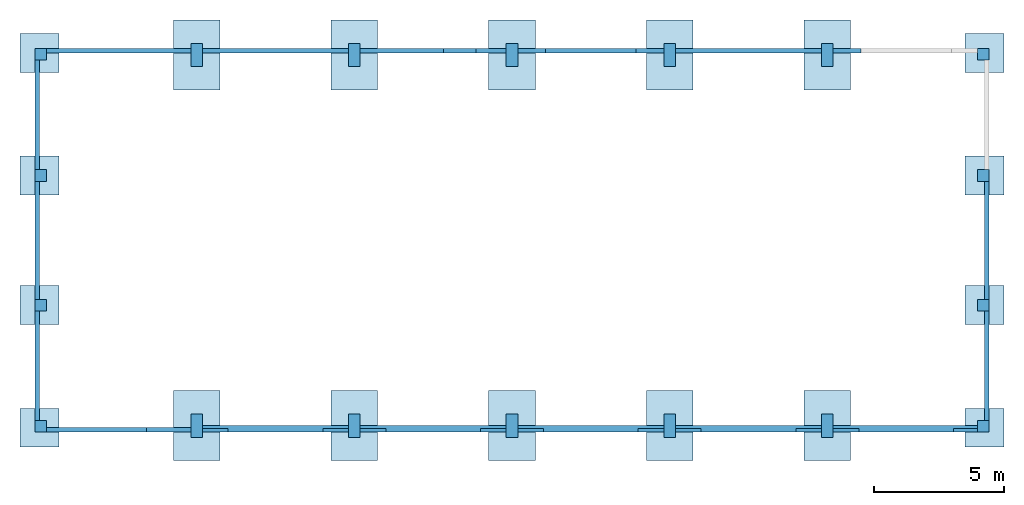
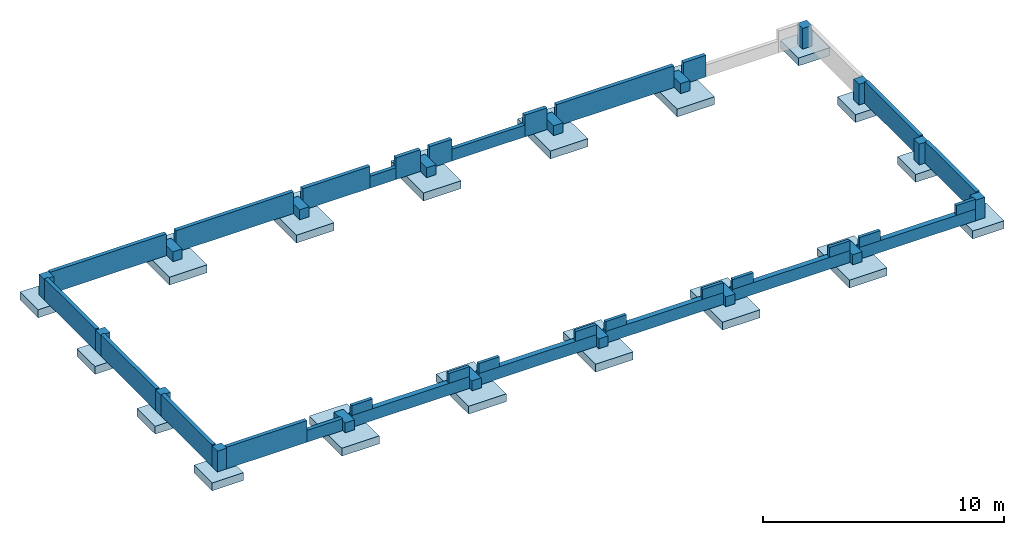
# One storey, part 1 of 2: 36 footings, 32 walls.
"""IFC2X3 building model written with IfcOpenShell, lengths in metres."""

from ifc_helpers import new_model, entity, si_unit, converted_unit, frame, frame_2d, origin, origin_with_axes, place, context, subcontext, project, spatial, rectangle, extrude, material, layer, layer_set, layer_usage, element, save


model = new_model("IFC2X3")

# Units and contexts
model_context = context("Model", 3, precision=1e-05, world=origin())
body_context = subcontext(model_context, "Body", "Model", "MODEL_VIEW")
ifc_project = project(units=[si_unit("LENGTHUNIT", "METRE"), si_unit("AREAUNIT", "SQUARE_METRE"), si_unit("VOLUMEUNIT", "CUBIC_METRE"), si_unit("MASSUNIT", "GRAM", prefix="KILO"), converted_unit("PLANEANGLEUNIT", "DEGREE", entity("IfcPlaneAngleMeasure", 0.0174532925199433), si_unit("PLANEANGLEUNIT", "RADIAN"), dimensions=[0, 0, 0, 0, 0, 0, 0])], contexts=[model_context])

# Building, storey
building_placement = place(None, origin())
building = spatial("IfcBuilding", under=ifc_project, at=building_placement, Name="Szalunki", CompositionType="ELEMENT")
storey_placement = place(building_placement, origin())
storey = spatial("IfcBuildingStorey", under=building, at=storey_placement, Name="Fundamenty", CompositionType="ELEMENT", Elevation=0.0)

# Footings
ifc_material_1 = material()
footing_1_placement = place(storey_placement, frame((5.16299999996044, 13.0500000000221, -1.2)))
element("IfcFooting", 1, at=footing_1_placement, inside=storey, material=ifc_material_1, PredefinedType="PAD_FOOTING", context=body_context, shape_type="SweptSolid", body=[
    extrude(rectangle(XDim=1.8, YDim=2.7, at=frame_2d((0.9, 1.35), x_axis=(1.0, 0.0))), origin_with_axes(), (0.0, 0.0, 1.0), 0.4),
])
ifc_material_2 = material()
footing_2_placement = place(storey_placement, frame((11.2459999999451, 13.0500000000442, -1.2)))
element("IfcFooting", 2, at=footing_2_placement, inside=storey, material=ifc_material_2, PredefinedType="PAD_FOOTING", context=body_context, shape_type="SweptSolid", body=[
    extrude(rectangle(XDim=1.8, YDim=2.7, at=frame_2d((0.9, 1.35), x_axis=(1.0, 0.0))), origin_with_axes(), (0.0, 0.0, 1.0), 0.4),
])
ifc_material_3 = material()
footing_3_placement = place(storey_placement, frame((17.3289999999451, 13.0500000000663, -1.2)))
element("IfcFooting", 3, at=footing_3_placement, inside=storey, material=ifc_material_3, PredefinedType="PAD_FOOTING", context=body_context, shape_type="SweptSolid", body=[
    extrude(rectangle(XDim=1.8, YDim=2.7, at=frame_2d((0.9, 1.35), x_axis=(1.0, 0.0))), origin_with_axes(), (0.0, 0.0, 1.0), 0.4),
])
ifc_material_4 = material()
footing_4_placement = place(storey_placement, frame((23.4119999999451, 13.0500000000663, -1.2)))
element("IfcFooting", 4, at=footing_4_placement, inside=storey, material=ifc_material_4, PredefinedType="PAD_FOOTING", context=body_context, shape_type="SweptSolid", body=[
    extrude(rectangle(XDim=1.8, YDim=2.7, at=frame_2d((0.9, 1.35), x_axis=(1.0, 0.0))), origin_with_axes(), (0.0, 0.0, 1.0), 0.4),
])
ifc_material_5 = material()
footing_5_placement = place(storey_placement, frame((29.4949999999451, 13.0500000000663, -1.2)))
element("IfcFooting", 5, at=footing_5_placement, inside=storey, material=ifc_material_5, PredefinedType="PAD_FOOTING", context=body_context, shape_type="SweptSolid", body=[
    extrude(rectangle(XDim=1.8, YDim=2.7, at=frame_2d((0.9, 1.35), x_axis=(1.0, 0.0))), origin_with_axes(), (0.0, 0.0, 1.0), 0.4),
])
ifc_material_6 = material()
footing_6_placement = place(storey_placement, frame((29.4949999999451, -1.24999999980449, -1.2)))
element("IfcFooting", 6, at=footing_6_placement, inside=storey, material=ifc_material_6, PredefinedType="PAD_FOOTING", context=body_context, shape_type="SweptSolid", body=[
    extrude(rectangle(XDim=1.8, YDim=2.7, at=frame_2d((-0.9, -1.35), x_axis=(-1.0, 0.0))), frame((1.8, 2.7, 0.0), z_axis=(0.0, 0.0, 1.0), x_axis=(1.0, 0.0, 0.0)), (0.0, 0.0, 1.0), 0.4),
])
ifc_material_7 = material()
footing_7_placement = place(storey_placement, frame((23.4119999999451, -1.24999999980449, -1.2)))
element("IfcFooting", 7, at=footing_7_placement, inside=storey, material=ifc_material_7, PredefinedType="PAD_FOOTING", context=body_context, shape_type="SweptSolid", body=[
    extrude(rectangle(XDim=1.8, YDim=2.7, at=frame_2d((-0.9, -1.35), x_axis=(-1.0, 0.0))), frame((1.8, 2.7, 0.0), z_axis=(0.0, 0.0, 1.0), x_axis=(1.0, 0.0, 0.0)), (0.0, 0.0, 1.0), 0.4),
])
ifc_material_8 = material()
footing_8_placement = place(storey_placement, frame((17.3289999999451, -1.24999999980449, -1.2)))
element("IfcFooting", 8, at=footing_8_placement, inside=storey, material=ifc_material_8, PredefinedType="PAD_FOOTING", context=body_context, shape_type="SweptSolid", body=[
    extrude(rectangle(XDim=1.8, YDim=2.7, at=frame_2d((-0.9, -1.35), x_axis=(-1.0, 0.0))), frame((1.8, 2.7, 0.0), z_axis=(0.0, 0.0, 1.0), x_axis=(1.0, 0.0, 0.0)), (0.0, 0.0, 1.0), 0.4),
])
ifc_material_9 = material()
footing_9_placement = place(storey_placement, frame((11.2459999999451, -1.24999999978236, -1.2)))
element("IfcFooting", 9, at=footing_9_placement, inside=storey, material=ifc_material_9, PredefinedType="PAD_FOOTING", context=body_context, shape_type="SweptSolid", body=[
    extrude(rectangle(XDim=1.8, YDim=2.7, at=frame_2d((-0.9, -1.35), x_axis=(-1.0, 0.0))), frame((1.8, 2.7, 0.0), z_axis=(0.0, 0.0, 1.0), x_axis=(1.0, 0.0, 0.0)), (0.0, 0.0, 1.0), 0.4),
])
ifc_material_10 = material()
footing_10_placement = place(storey_placement, frame((5.16299999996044, -1.24999999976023, -1.2)))
element("IfcFooting", 10, at=footing_10_placement, inside=storey, material=ifc_material_10, PredefinedType="PAD_FOOTING", context=body_context, shape_type="SweptSolid", body=[
    extrude(rectangle(XDim=1.8, YDim=2.7, at=frame_2d((-0.9, -1.35), x_axis=(-1.0, 0.0))), frame((1.8, 2.7, 0.0), z_axis=(0.0, 0.0, 1.0), x_axis=(1.0, 0.0, 0.0)), (0.0, 0.0, 1.0), 0.4),
])
ifc_material_11 = material()
footing_11_placement = place(storey_placement, frame((-0.750000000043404, 13.7299999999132, -1.2)))
element("IfcFooting", 11, at=footing_11_placement, inside=storey, material=ifc_material_11, PredefinedType="PAD_FOOTING", context=body_context, shape_type="SweptSolid", body=[
    extrude(rectangle(XDim=1.5, YDim=1.5, at=frame_2d((0.749999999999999, 0.75), x_axis=(1.0, 0.0))), origin_with_axes(), (0.0, 0.0, 1.0), 0.4),
])
ifc_material_12 = material()
footing_12_placement = place(storey_placement, frame((-0.750000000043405, 8.99999999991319, -1.2)))
element("IfcFooting", 12, at=footing_12_placement, inside=storey, material=ifc_material_12, PredefinedType="PAD_FOOTING", context=body_context, shape_type="SweptSolid", body=[
    extrude(rectangle(XDim=1.5, YDim=1.5, at=frame_2d((0.749999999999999, 0.75), x_axis=(1.0, 0.0))), origin_with_axes(), (0.0, 0.0, 1.0), 0.4),
])
ifc_material_13 = material()
footing_13_placement = place(storey_placement, frame((-0.750000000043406, 3.99999999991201, -1.2)))
element("IfcFooting", 13, at=footing_13_placement, inside=storey, material=ifc_material_13, PredefinedType="PAD_FOOTING", context=body_context, shape_type="SweptSolid", body=[
    extrude(rectangle(XDim=1.5, YDim=1.5, at=frame_2d((0.749999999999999, 0.75), x_axis=(1.0, 0.0))), origin_with_axes(), (0.0, 0.0, 1.0), 0.4),
])
ifc_material_14 = material()
footing_14_placement = place(storey_placement, frame((-0.750000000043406, -0.729999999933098, -1.2)))
element("IfcFooting", 14, at=footing_14_placement, inside=storey, material=ifc_material_14, PredefinedType="PAD_FOOTING", context=body_context, shape_type="SweptSolid", body=[
    extrude(rectangle(XDim=1.5, YDim=1.5, at=frame_2d((-0.75, -0.75), x_axis=(-1.0, 1.51582450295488e-16))), frame((1.5, 1.5, 0.0), z_axis=(0.0, 0.0, 1.0), x_axis=(1.0, 0.0, 0.0)), (0.0, 0.0, 1.0), 0.4),
])
ifc_material_15 = material()
footing_15_placement = place(storey_placement, frame((35.707999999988, -0.7299999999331, -1.2)))
element("IfcFooting", 15, at=footing_15_placement, inside=storey, material=ifc_material_15, PredefinedType="PAD_FOOTING", context=body_context, shape_type="SweptSolid", body=[
    extrude(rectangle(XDim=1.5, YDim=1.5, at=frame_2d((-0.75, -0.75), x_axis=(-1.0, -7.5791225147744e-17))), frame((1.5, 1.5, 0.0), z_axis=(0.0, 0.0, 1.0), x_axis=(1.0, 0.0, 0.0)), (0.0, 0.0, 1.0), 0.4),
])
ifc_material_16 = material()
footing_16_placement = place(storey_placement, frame((35.707999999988, 3.99999999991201, -1.2)))
element("IfcFooting", 16, at=footing_16_placement, inside=storey, material=ifc_material_16, PredefinedType="PAD_FOOTING", context=body_context, shape_type="SweptSolid", body=[
    extrude(rectangle(XDim=1.5, YDim=1.5, at=frame_2d((0.75, 0.75), x_axis=(1.0, 0.0))), origin_with_axes(), (0.0, 0.0, 1.0), 0.4),
])
ifc_material_17 = material()
footing_17_placement = place(storey_placement, frame((35.707999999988, 8.99999999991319, -1.2)))
element("IfcFooting", 17, at=footing_17_placement, inside=storey, material=ifc_material_17, PredefinedType="PAD_FOOTING", context=body_context, shape_type="SweptSolid", body=[
    extrude(rectangle(XDim=1.5, YDim=1.5, at=frame_2d((0.75, 0.75), x_axis=(1.0, 0.0))), origin_with_axes(), (0.0, 0.0, 1.0), 0.4),
])
ifc_material_18 = material()
footing_18_placement = place(storey_placement, frame((35.707999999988, 13.7299999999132, -1.2)))
element("IfcFooting", 18, at=footing_18_placement, inside=storey, material=ifc_material_18, PredefinedType="PAD_FOOTING", context=body_context, shape_type="SweptSolid", body=[
    extrude(rectangle(XDim=1.49999999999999, YDim=1.5, at=frame_2d((0.75, 0.75), x_axis=(1.0, 0.0))), origin_with_axes(), (0.0, 0.0, 1.0), 0.4),
])
ifc_material_19 = material()
footing_19_placement = place(storey_placement, frame((5.83799999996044, 13.9500000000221, -0.8)))
element("IfcFooting", 19, at=footing_19_placement, inside=storey, material=ifc_material_19, PredefinedType="PAD_FOOTING", context=body_context, shape_type="SweptSolid", body=[
    extrude(rectangle(XDim=0.45, YDim=0.9, at=frame_2d((0.225, 0.45), x_axis=(1.0, 0.0))), origin_with_axes(), (0.0, 0.0, 1.0), 0.5),
])
ifc_material_20 = material()
footing_20_placement = place(storey_placement, frame((11.9209999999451, 13.9500000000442, -0.8)))
element("IfcFooting", 20, at=footing_20_placement, inside=storey, material=ifc_material_20, PredefinedType="PAD_FOOTING", context=body_context, shape_type="SweptSolid", body=[
    extrude(rectangle(XDim=0.45, YDim=0.9, at=frame_2d((0.225, 0.45), x_axis=(1.0, 0.0))), origin_with_axes(), (0.0, 0.0, 1.0), 0.5),
])
ifc_material_21 = material()
footing_21_placement = place(storey_placement, frame((18.0039999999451, 13.9500000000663, -0.8)))
element("IfcFooting", 21, at=footing_21_placement, inside=storey, material=ifc_material_21, PredefinedType="PAD_FOOTING", context=body_context, shape_type="SweptSolid", body=[
    extrude(rectangle(XDim=0.45, YDim=0.9, at=frame_2d((0.225, 0.45), x_axis=(1.0, 0.0))), origin_with_axes(), (0.0, 0.0, 1.0), 0.5),
])
ifc_material_22 = material()
footing_22_placement = place(storey_placement, frame((24.0869999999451, 13.9500000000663, -0.8)))
element("IfcFooting", 22, at=footing_22_placement, inside=storey, material=ifc_material_22, PredefinedType="PAD_FOOTING", context=body_context, shape_type="SweptSolid", body=[
    extrude(rectangle(XDim=0.45, YDim=0.9, at=frame_2d((0.225, 0.45), x_axis=(1.0, 0.0))), origin_with_axes(), (0.0, 0.0, 1.0), 0.5),
])
ifc_material_23 = material()
footing_23_placement = place(storey_placement, frame((30.1699999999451, 13.9500000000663, -0.8)))
element("IfcFooting", 23, at=footing_23_placement, inside=storey, material=ifc_material_23, PredefinedType="PAD_FOOTING", context=body_context, shape_type="SweptSolid", body=[
    extrude(rectangle(XDim=0.45, YDim=0.9, at=frame_2d((0.225, 0.45), x_axis=(1.0, 0.0))), origin_with_axes(), (0.0, 0.0, 1.0), 0.5),
])
ifc_material_24 = material()
footing_24_placement = place(storey_placement, frame((30.1699999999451, -0.34999999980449, -0.8)))
element("IfcFooting", 24, at=footing_24_placement, inside=storey, material=ifc_material_24, PredefinedType="PAD_FOOTING", context=body_context, shape_type="SweptSolid", body=[
    extrude(rectangle(XDim=0.45, YDim=0.9, at=frame_2d((-0.225, -0.45), x_axis=(-1.0, 0.0))), frame((0.45, 0.9, 0.0), z_axis=(0.0, 0.0, 1.0), x_axis=(1.0, 0.0, 0.0)), (0.0, 0.0, 1.0), 0.5),
])
ifc_material_25 = material()
footing_25_placement = place(storey_placement, frame((24.0869999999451, -0.34999999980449, -0.8)))
element("IfcFooting", 25, at=footing_25_placement, inside=storey, material=ifc_material_25, PredefinedType="PAD_FOOTING", context=body_context, shape_type="SweptSolid", body=[
    extrude(rectangle(XDim=0.45, YDim=0.9, at=frame_2d((-0.225, -0.45), x_axis=(-1.0, 0.0))), frame((0.45, 0.9, 0.0), z_axis=(0.0, 0.0, 1.0), x_axis=(1.0, 0.0, 0.0)), (0.0, 0.0, 1.0), 0.5),
])
ifc_material_26 = material()
footing_26_placement = place(storey_placement, frame((18.0039999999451, -0.34999999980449, -0.8)))
element("IfcFooting", 26, at=footing_26_placement, inside=storey, material=ifc_material_26, PredefinedType="PAD_FOOTING", context=body_context, shape_type="SweptSolid", body=[
    extrude(rectangle(XDim=0.45, YDim=0.9, at=frame_2d((-0.225, -0.45), x_axis=(-1.0, 0.0))), frame((0.45, 0.9, 0.0), z_axis=(0.0, 0.0, 1.0), x_axis=(1.0, 0.0, 0.0)), (0.0, 0.0, 1.0), 0.5),
])
ifc_material_27 = material()
footing_27_placement = place(storey_placement, frame((11.9209999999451, -0.34999999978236, -0.8)))
element("IfcFooting", 27, at=footing_27_placement, inside=storey, material=ifc_material_27, PredefinedType="PAD_FOOTING", context=body_context, shape_type="SweptSolid", body=[
    extrude(rectangle(XDim=0.45, YDim=0.9, at=frame_2d((-0.225, -0.45), x_axis=(-1.0, 0.0))), frame((0.45, 0.9, 0.0), z_axis=(0.0, 0.0, 1.0), x_axis=(1.0, 0.0, 0.0)), (0.0, 0.0, 1.0), 0.5),
])
ifc_material_28 = material()
footing_28_placement = place(storey_placement, frame((5.83799999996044, -0.34999999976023, -0.8)))
element("IfcFooting", 28, at=footing_28_placement, inside=storey, material=ifc_material_28, PredefinedType="PAD_FOOTING", context=body_context, shape_type="SweptSolid", body=[
    extrude(rectangle(XDim=0.45, YDim=0.9, at=frame_2d((-0.225, -0.45), x_axis=(-1.0, 0.0))), frame((0.45, 0.9, 0.0), z_axis=(0.0, 0.0, 1.0), x_axis=(1.0, 0.0, 0.0)), (0.0, 0.0, 1.0), 0.5),
])
ifc_material_29 = material()
footing_29_placement = place(storey_placement, frame((-0.169999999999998, 9.52499999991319, -0.8)))
element("IfcFooting", 29, at=footing_29_placement, inside=storey, material=ifc_material_29, PredefinedType="PAD_FOOTING", context=body_context, shape_type="SweptSolid", body=[
    extrude(rectangle(XDim=0.449999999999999, YDim=0.45, at=frame_2d((0.225, 0.225), x_axis=(1.0, 0.0))), origin_with_axes(), (0.0, 0.0, 1.0), 1.05),
])
ifc_material_30 = material()
footing_30_placement = place(storey_placement, frame((-0.169999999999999, 4.52499999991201, -0.8)))
element("IfcFooting", 30, at=footing_30_placement, inside=storey, material=ifc_material_30, PredefinedType="PAD_FOOTING", context=body_context, shape_type="SweptSolid", body=[
    extrude(rectangle(XDim=0.449999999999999, YDim=0.45, at=frame_2d((0.225, 0.225), x_axis=(1.0, 0.0))), origin_with_axes(), (0.0, 0.0, 1.0), 1.05),
])
ifc_material_31 = material()
footing_31_placement = place(storey_placement, frame((-0.169999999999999, -0.149999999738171, -0.8)))
element("IfcFooting", 31, at=footing_31_placement, inside=storey, material=ifc_material_31, PredefinedType="PAD_FOOTING", context=body_context, shape_type="SweptSolid", body=[
    extrude(rectangle(XDim=0.449999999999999, YDim=0.45, at=frame_2d((-0.225, -0.225), x_axis=(-1.0, 1.26318708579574e-16))), frame((0.449999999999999, 0.45, 0.0), z_axis=(0.0, 0.0, 1.0), x_axis=(1.0, 0.0, 0.0)), (0.0, 0.0, 1.0), 1.05),
])
ifc_material_32 = material()
footing_32_placement = place(storey_placement, frame((-0.169999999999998, 14.2, -0.8)))
element("IfcFooting", 32, at=footing_32_placement, inside=storey, material=ifc_material_32, PredefinedType="PAD_FOOTING", context=body_context, shape_type="SweptSolid", body=[
    extrude(rectangle(XDim=0.449999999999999, YDim=0.45, at=frame_2d((0.225, 0.225), x_axis=(1.0, 0.0))), origin_with_axes(), (0.0, 0.0, 1.0), 1.05),
])
ifc_material_33 = material()
footing_33_placement = place(storey_placement, frame((36.1779999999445, 4.52499999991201, -0.8)))
element("IfcFooting", 33, at=footing_33_placement, inside=storey, material=ifc_material_33, PredefinedType="PAD_FOOTING", context=body_context, shape_type="SweptSolid", body=[
    extrude(rectangle(XDim=0.45, YDim=0.45, at=frame_2d((0.225, 0.225), x_axis=(1.0, 0.0))), origin_with_axes(), (0.0, 0.0, 1.0), 1.05),
])
ifc_material_34 = material()
footing_34_placement = place(storey_placement, frame((36.1779999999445, 9.52499999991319, -0.8)))
element("IfcFooting", 34, at=footing_34_placement, inside=storey, material=ifc_material_34, PredefinedType="PAD_FOOTING", context=body_context, shape_type="SweptSolid", body=[
    extrude(rectangle(XDim=0.45, YDim=0.45, at=frame_2d((0.225, 0.225), x_axis=(1.0, 0.0))), origin_with_axes(), (0.0, 0.0, 1.0), 1.05),
])
ifc_material_35 = material()
footing_35_placement = place(storey_placement, frame((36.1779999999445, 14.2, -0.8)))
element("IfcFooting", 35, at=footing_35_placement, inside=storey, material=ifc_material_35, PredefinedType="PAD_FOOTING", context=body_context, shape_type="SweptSolid", body=[
    extrude(rectangle(XDim=0.45, YDim=0.45, at=frame_2d((0.225, 0.225), x_axis=(1.0, 0.0))), origin_with_axes(), (0.0, 0.0, 1.0), 1.05),
])
ifc_material_36 = material()
footing_36_placement = place(storey_placement, frame((36.1779999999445, -0.149999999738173, -0.8)))
element("IfcFooting", 36, at=footing_36_placement, inside=storey, material=ifc_material_36, PredefinedType="PAD_FOOTING", context=body_context, shape_type="SweptSolid", body=[
    extrude(rectangle(XDim=0.45, YDim=0.45, at=frame_2d((-0.225, -0.225), x_axis=(-1.0, -1.26318708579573e-16))), frame((0.45, 0.45, 0.0), z_axis=(0.0, 0.0, 1.0), x_axis=(1.0, 0.0, 0.0)), (0.0, 0.0, 1.0), 1.05),
])

# Walls
ifc_material_37 = material()
ifc_layer_1 = layer(ifc_material_37, 0.18)
ifc_layer_set_1 = layer_set([ifc_layer_1])
ifc_layer_usage_1 = layer_usage(ifc_layer_set_1, "AXIS2", "POSITIVE", 0.0)
wall_1_placement = place(storey_placement, frame((11.9209999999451, 14.65, -0.8), z_axis=(0.0, 0.0, 1.0), x_axis=(-1.0, 0.0, 0.0)))
element("IfcWallStandardCase", 37, at=wall_1_placement, inside=storey, material=ifc_layer_usage_1, context=body_context, shape_type="SweptSolid", body=[
    extrude(rectangle(XDim=5.63299999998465, YDim=0.18, at=frame_2d((2.81649999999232, 0.09), x_axis=(1.0, 0.0))), origin_with_axes(), (0.0, 0.0, 1.0), 1.1),
])
ifc_material_38 = material()
ifc_layer_2 = layer(ifc_material_38, 0.18)
ifc_layer_set_2 = layer_set([ifc_layer_2])
ifc_layer_usage_2 = layer_usage(ifc_layer_set_2, "AXIS2", "POSITIVE", 0.0)
wall_2_placement = place(storey_placement, frame((30.1699999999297, 14.65, -0.8), z_axis=(0.0, 0.0, 1.0), x_axis=(-1.0, 0.0, 0.0)))
element("IfcWallStandardCase", 38, at=wall_2_placement, inside=storey, material=ifc_layer_usage_2, context=body_context, shape_type="SweptSolid", body=[
    extrude(rectangle(XDim=5.63299999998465, YDim=0.18, at=frame_2d((2.81649999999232, 0.09), x_axis=(1.0, 0.0))), origin_with_axes(), (0.0, 0.0, 1.0), 1.1),
])
ifc_material_39 = material()
ifc_layer_3 = layer(ifc_material_39, 0.18)
ifc_layer_set_3 = layer_set([ifc_layer_3])
ifc_layer_usage_3 = layer_usage(ifc_layer_set_3, "AXIS2", "POSITIVE", 0.0)
wall_3_placement = place(storey_placement, frame((15.5960014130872, 14.65, -0.8), z_axis=(0.0, 0.0, 1.0), x_axis=(-1.0, 0.0, 0.0)))
element("IfcWallStandardCase", 39, at=wall_3_placement, inside=storey, material=ifc_layer_usage_3, context=body_context, shape_type="SweptSolid", body=[
    extrude(rectangle(XDim=3.22500141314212, YDim=0.18, at=frame_2d((1.61250070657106, 0.09), x_axis=(1.0, 0.0))), origin_with_axes(), (0.0, 0.0, 1.0), 1.1),
])
ifc_material_40 = material()
ifc_layer_4 = layer(ifc_material_40, 0.18)
ifc_layer_set_4 = layer_set([ifc_layer_4])
ifc_layer_usage_4 = layer_usage(ifc_layer_set_4, "AXIS2", "POSITIVE", 0.0)
wall_4_placement = place(storey_placement, frame((18.0039999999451, 14.65, -0.8), z_axis=(0.0, 0.0, 1.0), x_axis=(-1.0, 0.0, 0.0)))
element("IfcWallStandardCase", 40, at=wall_4_placement, inside=storey, material=ifc_layer_usage_4, context=body_context, shape_type="SweptSolid", body=[
    extrude(rectangle(XDim=1.15799858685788, YDim=0.18, at=frame_2d((0.57899929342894, 0.09), x_axis=(1.0, 0.0))), origin_with_axes(), (0.0, 0.0, 1.0), 1.1),
])
ifc_material_41 = material()
ifc_layer_5 = layer(ifc_material_41, 0.18)
ifc_layer_set_5 = layer_set([ifc_layer_5])
ifc_layer_usage_5 = layer_usage(ifc_layer_set_5, "AXIS2", "POSITIVE", 0.0)
wall_5_placement = place(storey_placement, frame((16.8460014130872, 14.65, -0.8), z_axis=(0.0, 0.0, 1.0), x_axis=(-1.0, 0.0, 0.0)))
element("IfcWallStandardCase", 41, at=wall_5_placement, inside=storey, material=ifc_layer_usage_5, context=body_context, shape_type="SweptSolid", body=[
    extrude(rectangle(XDim=1.25, YDim=0.18, at=frame_2d((0.625, 0.09), x_axis=(1.0, 0.0))), origin_with_axes(), (0.0, 0.0, 1.0), 0.6),
])
ifc_material_42 = material()
ifc_layer_6 = layer(ifc_material_42, 0.18)
ifc_layer_set_6 = layer_set([ifc_layer_6])
ifc_layer_usage_6 = layer_usage(ifc_layer_set_6, "AXIS2", "POSITIVE", 0.0)
wall_6_placement = place(storey_placement, frame((4.12100141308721, -0.149999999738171, -0.8)))
element("IfcWallStandardCase", 42, at=wall_6_placement, inside=storey, material=ifc_layer_usage_6, context=body_context, shape_type="SweptSolid", body=[
    extrude(rectangle(XDim=1.71699858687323, YDim=0.18, at=frame_2d((0.858499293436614, 0.09), x_axis=(1.0, 0.0))), origin_with_axes(), (0.0, 0.0, 1.0), 0.6),
])
ifc_material_43 = material()
ifc_layer_7 = layer(ifc_material_43, 0.18)
ifc_layer_set_7 = layer_set([ifc_layer_7])
ifc_layer_usage_7 = layer_usage(ifc_layer_set_7, "AXIS2", "POSITIVE", 0.0)
wall_7_placement = place(storey_placement, frame((-0.169999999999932, 9.52499999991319, -0.8), z_axis=(0.0, 0.0, 1.0), x_axis=(-1.45419207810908e-14, -1.0, 0.0)))
element("IfcWallStandardCase", 43, at=wall_7_placement, inside=storey, material=ifc_layer_usage_7, context=body_context, shape_type="SweptSolid", body=[
    extrude(rectangle(XDim=4.55000000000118, YDim=0.18, at=frame_2d((2.27500000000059, 0.09), x_axis=(1.0, 0.0))), origin_with_axes(), (0.0, 0.0, 1.0), 1.1),
])
ifc_material_44 = material()
ifc_layer_8 = layer(ifc_material_44, 0.18)
ifc_layer_set_8 = layer_set([ifc_layer_8])
ifc_layer_usage_8 = layer_usage(ifc_layer_set_8, "AXIS2", "POSITIVE", 0.0)
wall_8_placement = place(storey_placement, frame((36.6279999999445, 4.97499999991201, -0.8), z_axis=(0.0, 0.0, 1.0), x_axis=(-1.43920040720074e-14, 1.0, 0.0)))
element("IfcWallStandardCase", 44, at=wall_8_placement, inside=storey, material=ifc_layer_usage_8, context=body_context, shape_type="SweptSolid", body=[
    extrude(rectangle(XDim=4.55000000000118, YDim=0.18, at=frame_2d((2.27500000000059, 0.09), x_axis=(1.0, 0.0))), origin_with_axes(), (0.0, 0.0, 1.0), 1.1),
])
ifc_material_45 = material()
ifc_layer_9 = layer(ifc_material_45, 0.18)
ifc_layer_set_9 = layer_set([ifc_layer_9])
ifc_layer_usage_9 = layer_usage(ifc_layer_set_9, "AXIS2", "POSITIVE", 0.0)
wall_9_placement = place(storey_placement, frame((36.6279999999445, 0.300000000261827, -0.8), z_axis=(0.0, 0.0, 1.0), x_axis=(-1.5499081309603e-14, 1.0, 0.0)))
element("IfcWallStandardCase", 45, at=wall_9_placement, inside=storey, material=ifc_layer_usage_9, context=body_context, shape_type="SweptSolid", body=[
    extrude(rectangle(XDim=4.22499999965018, YDim=0.18, at=frame_2d((2.11249999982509, 0.09), x_axis=(1.0, 0.0))), origin_with_axes(), (0.0, 0.0, 1.0), 1.1),
])
ifc_material_46 = material()
ifc_layer_10 = layer(ifc_material_46, 0.18)
ifc_layer_set_10 = layer_set([ifc_layer_10])
ifc_layer_usage_10 = layer_usage(ifc_layer_set_10, "AXIS2", "POSITIVE", 0.0)
wall_10_placement = place(storey_placement, frame((31.6915014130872, 14.65, -0.8), z_axis=(0.0, 0.0, 1.0), x_axis=(-1.0, 0.0, 0.0)))
element("IfcWallStandardCase", 46, at=wall_10_placement, inside=storey, material=ifc_layer_usage_10, context=body_context, shape_type="SweptSolid", body=[
    extrude(rectangle(XDim=1.07150141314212, YDim=0.18, at=frame_2d((0.53575070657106, 0.09), x_axis=(1.0, 0.0))), origin_with_axes(), (0.0, 0.0, 1.0), 1.1),
])
ifc_material_47 = material()
ifc_layer_11 = layer(ifc_material_47, 0.18)
ifc_layer_set_11 = layer_set([ifc_layer_11])
ifc_layer_usage_11 = layer_usage(ifc_layer_set_11, "AXIS2", "POSITIVE", 0.0)
wall_11_placement = place(storey_placement, frame((19.5255014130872, 14.65, -0.8), z_axis=(0.0, 0.0, 1.0), x_axis=(-1.0, 0.0, 0.0)))
element("IfcWallStandardCase", 47, at=wall_11_placement, inside=storey, material=ifc_layer_usage_11, context=body_context, shape_type="SweptSolid", body=[
    extrude(rectangle(XDim=1.07150141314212, YDim=0.18, at=frame_2d((0.53575070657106, 0.09), x_axis=(1.0, 0.0))), origin_with_axes(), (0.0, 0.0, 1.0), 1.1),
])
ifc_material_48 = material()
ifc_layer_12 = layer(ifc_material_48, 0.18)
ifc_layer_set_12 = layer_set([ifc_layer_12])
ifc_layer_usage_12 = layer_usage(ifc_layer_set_12, "AXIS2", "POSITIVE", 0.0)
wall_12_placement = place(storey_placement, frame((24.0869999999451, 14.65, -0.8), z_axis=(0.0, 0.0, 1.0), x_axis=(-1.0, 0.0, 0.0)))
element("IfcWallStandardCase", 48, at=wall_12_placement, inside=storey, material=ifc_layer_usage_12, context=body_context, shape_type="SweptSolid", body=[
    extrude(rectangle(XDim=1.07149858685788, YDim=0.18, at=frame_2d((0.53574929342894, 0.09), x_axis=(1.0, 0.0))), origin_with_axes(), (0.0, 0.0, 1.0), 1.1),
])
ifc_material_49 = material()
ifc_layer_13 = layer(ifc_material_49, 0.18)
ifc_layer_set_13 = layer_set([ifc_layer_13])
ifc_layer_usage_13 = layer_usage(ifc_layer_set_13, "AXIS2", "POSITIVE", 0.0)
wall_13_placement = place(storey_placement, frame((23.0155014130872, 14.65, -0.8), z_axis=(0.0, 0.0, 1.0), x_axis=(-1.0, 0.0, 0.0)))
element("IfcWallStandardCase", 49, at=wall_13_placement, inside=storey, material=ifc_layer_usage_13, context=body_context, shape_type="SweptSolid", body=[
    extrude(rectangle(XDim=3.49, YDim=0.18, at=frame_2d((1.745, 0.09), x_axis=(1.0, 0.0))), origin_with_axes(), (0.0, 0.0, 1.0), 0.6),
])
ifc_material_50 = material()
ifc_layer_14 = layer(ifc_material_50, 0.18)
ifc_layer_set_14 = layer_set([ifc_layer_14])
ifc_layer_usage_14 = layer_usage(ifc_layer_set_14, "AXIS2", "POSITIVE", 0.0)
wall_14_placement = place(storey_placement, frame((0.28, -0.149999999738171, -0.8)))
element("IfcWallStandardCase", 50, at=wall_14_placement, inside=storey, material=ifc_layer_usage_14, context=body_context, shape_type="SweptSolid", body=[
    extrude(rectangle(XDim=3.84100141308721, YDim=0.18, at=frame_2d((1.9205007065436, 0.09), x_axis=(1.0, 0.0))), origin_with_axes(), (0.0, 0.0, 1.0), 1.1),
])
ifc_material_51 = material()
ifc_layer_15 = layer(ifc_material_51, 0.18)
ifc_layer_set_15 = layer_set([ifc_layer_15])
ifc_layer_usage_15 = layer_usage(ifc_layer_set_15, "AXIS2", "POSITIVE", 0.0)
wall_15_placement = place(storey_placement, frame((-0.169999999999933, 4.52499999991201, -0.8), z_axis=(0.0, 0.0, 1.0), x_axis=(-1.56538030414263e-14, -1.0, 0.0)))
element("IfcWallStandardCase", 51, at=wall_15_placement, inside=storey, material=ifc_layer_usage_15, context=body_context, shape_type="SweptSolid", body=[
    extrude(rectangle(XDim=4.22499999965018, YDim=0.18, at=frame_2d((2.11249999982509, 0.09), x_axis=(1.0, 0.0))), origin_with_axes(), (0.0, 0.0, 1.0), 1.1),
])
ifc_material_52 = material()
ifc_layer_16 = layer(ifc_material_52, 0.18)
ifc_layer_set_16 = layer_set([ifc_layer_16])
ifc_layer_usage_16 = layer_usage(ifc_layer_set_16, "AXIS2", "POSITIVE", 0.0)
wall_16_placement = place(storey_placement, frame((5.83799999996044, 14.65, -0.8), z_axis=(0.0, 0.0, 1.0), x_axis=(-1.0, 0.0, 0.0)))
element("IfcWallStandardCase", 52, at=wall_16_placement, inside=storey, material=ifc_layer_usage_16, context=body_context, shape_type="SweptSolid", body=[
    extrude(rectangle(XDim=5.55799999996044, YDim=0.18, at=frame_2d((2.77899999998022, 0.09), x_axis=(1.0, 0.0))), origin_with_axes(), (0.0, 0.0, 1.0), 1.1),
])
ifc_material_53 = material()
ifc_layer_17 = layer(ifc_material_53, 0.18)
ifc_layer_set_17 = layer_set([ifc_layer_17])
ifc_layer_usage_17 = layer_usage(ifc_layer_set_17, "AXIS2", "POSITIVE", 0.0)
wall_17_placement = place(storey_placement, frame((-0.169999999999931, 14.2, -0.8), z_axis=(0.0, 0.0, 1.0), x_axis=(-1.56470760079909e-14, -1.0, 0.0)))
element("IfcWallStandardCase", 53, at=wall_17_placement, inside=storey, material=ifc_layer_usage_17, context=body_context, shape_type="SweptSolid", body=[
    extrude(rectangle(XDim=4.22500000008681, YDim=0.18, at=frame_2d((2.1125000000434, 0.09), x_axis=(1.0, 0.0))), origin_with_axes(), (0.0, 0.0, 1.0), 1.1),
])
ifc_material_54 = material()
ifc_layer_18 = layer(ifc_material_54, 0.25)
ifc_layer_set_18 = layer_set([ifc_layer_18])
ifc_layer_usage_18 = layer_usage(ifc_layer_set_18, "AXIS2", "POSITIVE", 0.0)
wall_18_placement = place(storey_placement, frame((30.6199999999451, -0.149999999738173, -0.8)))
element("IfcWallStandardCase", 54, at=wall_18_placement, inside=storey, material=ifc_layer_usage_18, context=body_context, shape_type="SweptSolid", body=[
    extrude(rectangle(XDim=5.5579999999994, YDim=0.25, at=frame_2d((2.7789999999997, 0.125), x_axis=(1.0, 0.0))), origin_with_axes(), (0.0, 0.0, 1.0), 0.6),
])
ifc_material_55 = material()
ifc_layer_19 = layer(ifc_material_55, 0.15)
ifc_layer_set_19 = layer_set([ifc_layer_19])
ifc_layer_usage_19 = layer_usage(ifc_layer_set_19, "AXIS2", "POSITIVE", 0.0)
wall_19_placement = place(storey_placement, frame((35.2615014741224, -0.149999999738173, -0.2)))
element("IfcWallStandardCase", 55, at=wall_19_placement, inside=storey, material=ifc_layer_usage_19, context=body_context, shape_type="SweptSolid", body=[
    extrude(rectangle(XDim=0.916498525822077, YDim=0.15, at=frame_2d((0.458249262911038, 0.075), x_axis=(1.0, 0.0))), origin_with_axes(), (0.0, 0.0, 1.0), 0.5),
])
ifc_material_56 = material()
ifc_layer_20 = layer(ifc_material_56, 0.15)
ifc_layer_set_20 = layer_set([ifc_layer_20])
ifc_layer_usage_20 = layer_usage(ifc_layer_set_20, "AXIS2", "POSITIVE", 0.0)
wall_20_placement = place(storey_placement, frame((30.6199999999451, -0.149999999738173, -0.2)))
element("IfcWallStandardCase", 56, at=wall_20_placement, inside=storey, material=ifc_layer_usage_20, context=body_context, shape_type="SweptSolid", body=[
    extrude(rectangle(XDim=0.991501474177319, YDim=0.15, at=frame_2d((0.49575073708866, 0.075), x_axis=(1.0, 0.0))), origin_with_axes(), (0.0, 0.0, 1.0), 0.5),
])
ifc_material_57 = material()
ifc_layer_21 = layer(ifc_material_57, 0.25)
ifc_layer_set_21 = layer_set([ifc_layer_21])
ifc_layer_usage_21 = layer_usage(ifc_layer_set_21, "AXIS2", "POSITIVE", 0.0)
wall_21_placement = place(storey_placement, frame((24.5369999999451, -0.149999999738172, -0.8)))
element("IfcWallStandardCase", 57, at=wall_21_placement, inside=storey, material=ifc_layer_usage_21, context=body_context, shape_type="SweptSolid", body=[
    extrude(rectangle(XDim=5.633, YDim=0.25, at=frame_2d((2.8165, 0.125), x_axis=(1.0, 0.0))), origin_with_axes(), (0.0, 0.0, 1.0), 0.6),
])
ifc_material_58 = material()
ifc_layer_22 = layer(ifc_material_58, 0.15)
ifc_layer_set_22 = layer_set([ifc_layer_22])
ifc_layer_usage_22 = layer_usage(ifc_layer_set_22, "AXIS2", "POSITIVE", 0.0)
wall_22_placement = place(storey_placement, frame((24.5369999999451, -0.149999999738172, -0.2)))
element("IfcWallStandardCase", 58, at=wall_22_placement, inside=storey, material=ifc_layer_usage_22, context=body_context, shape_type="SweptSolid", body=[
    extrude(rectangle(XDim=0.991501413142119, YDim=0.15, at=frame_2d((0.49575070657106, 0.075), x_axis=(1.0, 0.0))), origin_with_axes(), (0.0, 0.0, 1.0), 0.5),
])
ifc_material_59 = material()
ifc_layer_23 = layer(ifc_material_59, 0.15)
ifc_layer_set_23 = layer_set([ifc_layer_23])
ifc_layer_usage_23 = layer_usage(ifc_layer_set_23, "AXIS2", "POSITIVE", 0.0)
wall_23_placement = place(storey_placement, frame((29.1785014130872, -0.149999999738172, -0.2), z_axis=(0.0, 0.0, 1.0), x_axis=(1.0, -2.86654058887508e-17, 0.0)))
element("IfcWallStandardCase", 59, at=wall_23_placement, inside=storey, material=ifc_layer_usage_23, context=body_context, shape_type="SweptSolid", body=[
    extrude(rectangle(XDim=0.991498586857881, YDim=0.15, at=frame_2d((0.49574929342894, 0.075), x_axis=(1.0, 0.0))), origin_with_axes(), (0.0, 0.0, 1.0), 0.5),
])
ifc_material_60 = material()
ifc_layer_24 = layer(ifc_material_60, 0.25)
ifc_layer_set_24 = layer_set([ifc_layer_24])
ifc_layer_usage_24 = layer_usage(ifc_layer_set_24, "AXIS2", "POSITIVE", 0.0)
wall_24_placement = place(storey_placement, frame((18.4539999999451, -0.149999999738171, -0.8)))
element("IfcWallStandardCase", 60, at=wall_24_placement, inside=storey, material=ifc_layer_usage_24, context=body_context, shape_type="SweptSolid", body=[
    extrude(rectangle(XDim=5.633, YDim=0.25, at=frame_2d((2.8165, 0.125), x_axis=(1.0, 0.0))), origin_with_axes(), (0.0, 0.0, 1.0), 0.6),
])
ifc_material_61 = material()
ifc_layer_25 = layer(ifc_material_61, 0.15)
ifc_layer_set_25 = layer_set([ifc_layer_25])
ifc_layer_usage_25 = layer_usage(ifc_layer_set_25, "AXIS2", "POSITIVE", 0.0)
wall_25_placement = place(storey_placement, frame((18.4539999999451, -0.149999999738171, -0.2)))
element("IfcWallStandardCase", 61, at=wall_25_placement, inside=storey, material=ifc_layer_usage_25, context=body_context, shape_type="SweptSolid", body=[
    extrude(rectangle(XDim=0.991501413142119, YDim=0.15, at=frame_2d((0.49575070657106, 0.075), x_axis=(1.0, 0.0))), origin_with_axes(), (0.0, 0.0, 1.0), 0.5),
])
ifc_material_62 = material()
ifc_layer_26 = layer(ifc_material_62, 0.15)
ifc_layer_set_26 = layer_set([ifc_layer_26])
ifc_layer_usage_26 = layer_usage(ifc_layer_set_26, "AXIS2", "POSITIVE", 0.0)
wall_26_placement = place(storey_placement, frame((23.0955014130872, -0.149999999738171, -0.2), z_axis=(0.0, 0.0, 1.0), x_axis=(1.0, -2.86654058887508e-17, 0.0)))
element("IfcWallStandardCase", 62, at=wall_26_placement, inside=storey, material=ifc_layer_usage_26, context=body_context, shape_type="SweptSolid", body=[
    extrude(rectangle(XDim=0.991498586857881, YDim=0.15, at=frame_2d((0.49574929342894, 0.075), x_axis=(1.0, 0.0))), origin_with_axes(), (0.0, 0.0, 1.0), 0.5),
])
ifc_material_63 = material()
ifc_layer_27 = layer(ifc_material_63, 0.25)
ifc_layer_set_27 = layer_set([ifc_layer_27])
ifc_layer_usage_27 = layer_usage(ifc_layer_set_27, "AXIS2", "POSITIVE", 0.0)
wall_27_placement = place(storey_placement, frame((12.3709999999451, -0.149999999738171, -0.8)))
element("IfcWallStandardCase", 63, at=wall_27_placement, inside=storey, material=ifc_layer_usage_27, context=body_context, shape_type="SweptSolid", body=[
    extrude(rectangle(XDim=5.633, YDim=0.25, at=frame_2d((2.8165, 0.125), x_axis=(1.0, 0.0))), origin_with_axes(), (0.0, 0.0, 1.0), 0.6),
])
ifc_material_64 = material()
ifc_layer_28 = layer(ifc_material_64, 0.15)
ifc_layer_set_28 = layer_set([ifc_layer_28])
ifc_layer_usage_28 = layer_usage(ifc_layer_set_28, "AXIS2", "POSITIVE", 0.0)
wall_28_placement = place(storey_placement, frame((12.3709999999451, -0.149999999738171, -0.2)))
element("IfcWallStandardCase", 64, at=wall_28_placement, inside=storey, material=ifc_layer_usage_28, context=body_context, shape_type="SweptSolid", body=[
    extrude(rectangle(XDim=0.991501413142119, YDim=0.15, at=frame_2d((0.49575070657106, 0.075), x_axis=(1.0, 0.0))), origin_with_axes(), (0.0, 0.0, 1.0), 0.5),
])
ifc_material_65 = material()
ifc_layer_29 = layer(ifc_material_65, 0.15)
ifc_layer_set_29 = layer_set([ifc_layer_29])
ifc_layer_usage_29 = layer_usage(ifc_layer_set_29, "AXIS2", "POSITIVE", 0.0)
wall_29_placement = place(storey_placement, frame((17.0125014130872, -0.149999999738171, -0.2), z_axis=(0.0, 0.0, 1.0), x_axis=(1.0, -2.86654058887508e-17, 0.0)))
element("IfcWallStandardCase", 65, at=wall_29_placement, inside=storey, material=ifc_layer_usage_29, context=body_context, shape_type="SweptSolid", body=[
    extrude(rectangle(XDim=0.991498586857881, YDim=0.15, at=frame_2d((0.49574929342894, 0.075), x_axis=(1.0, 0.0))), origin_with_axes(), (0.0, 0.0, 1.0), 0.5),
])
ifc_material_66 = material()
ifc_layer_30 = layer(ifc_material_66, 0.25)
ifc_layer_set_30 = layer_set([ifc_layer_30])
ifc_layer_usage_30 = layer_usage(ifc_layer_set_30, "AXIS2", "POSITIVE", 0.0)
wall_30_placement = place(storey_placement, frame((6.28799999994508, -0.14999999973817, -0.8)))
element("IfcWallStandardCase", 66, at=wall_30_placement, inside=storey, material=ifc_layer_usage_30, context=body_context, shape_type="SweptSolid", body=[
    extrude(rectangle(XDim=5.633, YDim=0.25, at=frame_2d((2.8165, 0.125), x_axis=(1.0, 0.0))), origin_with_axes(), (0.0, 0.0, 1.0), 0.6),
])
ifc_material_67 = material()
ifc_layer_31 = layer(ifc_material_67, 0.15)
ifc_layer_set_31 = layer_set([ifc_layer_31])
ifc_layer_usage_31 = layer_usage(ifc_layer_set_31, "AXIS2", "POSITIVE", 0.0)
wall_31_placement = place(storey_placement, frame((6.28799999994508, -0.14999999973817, -0.2)))
element("IfcWallStandardCase", 67, at=wall_31_placement, inside=storey, material=ifc_layer_usage_31, context=body_context, shape_type="SweptSolid", body=[
    extrude(rectangle(XDim=0.991501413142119, YDim=0.15, at=frame_2d((0.49575070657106, 0.075), x_axis=(1.0, 0.0))), origin_with_axes(), (0.0, 0.0, 1.0), 0.5),
])
ifc_material_68 = material()
ifc_layer_32 = layer(ifc_material_68, 0.15)
ifc_layer_set_32 = layer_set([ifc_layer_32])
ifc_layer_usage_32 = layer_usage(ifc_layer_set_32, "AXIS2", "POSITIVE", 0.0)
wall_32_placement = place(storey_placement, frame((10.9295014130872, -0.14999999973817, -0.2), z_axis=(0.0, 0.0, 1.0), x_axis=(1.0, -2.86654058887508e-17, 0.0)))
element("IfcWallStandardCase", 68, at=wall_32_placement, inside=storey, material=ifc_layer_usage_32, context=body_context, shape_type="SweptSolid", body=[
    extrude(rectangle(XDim=0.991498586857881, YDim=0.15, at=frame_2d((0.49574929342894, 0.075), x_axis=(1.0, 0.0))), origin_with_axes(), (0.0, 0.0, 1.0), 0.5),
])

save(model, "model.ifc")
